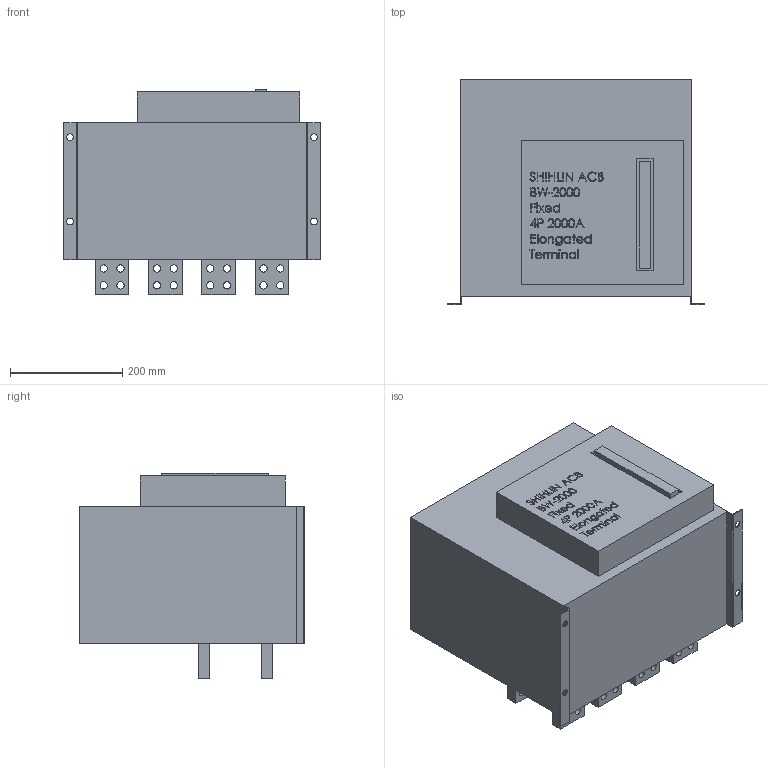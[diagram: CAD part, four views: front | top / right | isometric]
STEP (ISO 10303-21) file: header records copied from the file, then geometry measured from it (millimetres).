
FILE_DESCRIPTION (( 'STEP AP203' ), '1' );
FILE_NAME ('BW-2000-Fixed-4P-2000A-Elongated Terminal.STEP', '2020-04-09T10:49:21', ( '' ), ( '' ), 'SwSTEP 2.0', 'SolidWorks 2017', '' );
FILE_SCHEMA (( 'CONFIG_CONTROL_DESIGN' ));
Length unit declared in the file: millimetre
Products named in the file (1): BW-2000-Fixed-4P-2000A-Elongated Terminal
Bounding box: 457 x 402 x 367 mm (x, y, z)
Volume: 43728606.9 mm3; surface area: 944603.8 mm2
Topology: 3 solids, 3 shells, 737 faces, 1947 edges, 1298 vertices
Faces by surface type: plane 427, bspline 236, cylinder 74
Entity records: 36034 total; most frequent: CARTESIAN_POINT 19003, ORIENTED_EDGE 3894, DIRECTION 2627, EDGE_CURVE 1947, LINE 1327, VECTOR 1327, VERTEX_POINT 1298, EDGE_LOOP 891
